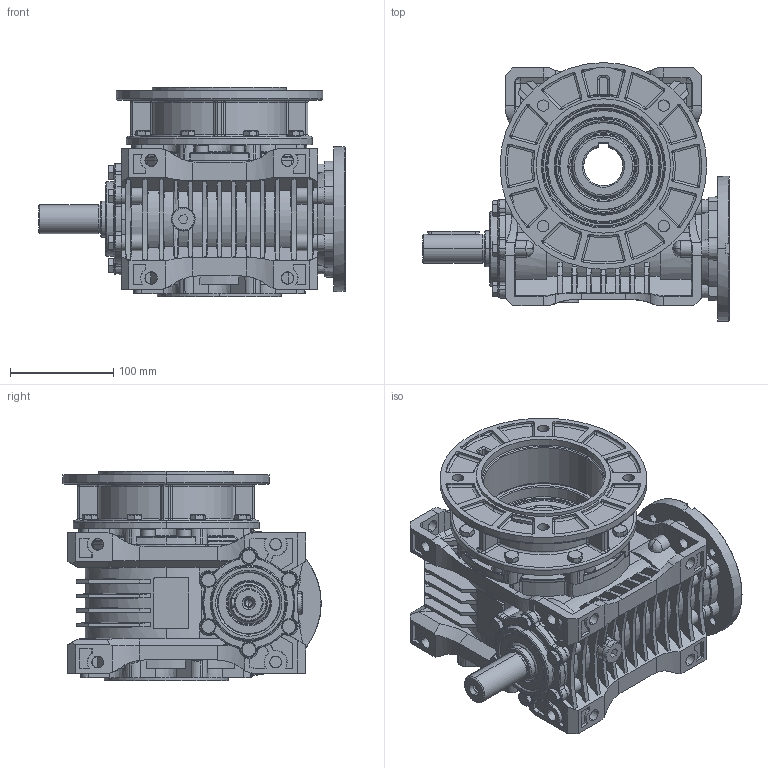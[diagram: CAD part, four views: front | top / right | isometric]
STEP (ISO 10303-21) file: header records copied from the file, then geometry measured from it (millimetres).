
FILE_DESCRIPTION (( 'STEP AP203' ), '1' );
FILE_NAME ('MR-80_140-24-WBS-K200_2-3D.STEP', '2024-05-07T08:42:56', ( '' ), ( '' ), 'SwSTEP 2.0', 'SolidWorks 2022', '' );
FILE_SCHEMA (( 'CONFIG_CONTROL_DESIGN' ));
Length unit declared in the file: millimetre
Products named in the file (1): MR-80_140-24-WBS-K200_2-3D
Bounding box: 297 x 250.22 x 202.5 mm (x, y, z)
Volume: 4510426.2 mm3; surface area: 569890.1 mm2
Topology: 1 solids, 64 shells, 3736 faces, 9541 edges, 5936 vertices
Faces by surface type: plane 1360, cone 1041, cylinder 624, torus 345, bspline 278, sphere 88
Entity records: 124600 total; most frequent: CARTESIAN_POINT 37460, ORIENTED_EDGE 18762, DIRECTION 17852, EDGE_CURVE 9381, AXIS2_PLACEMENT_3D 6999, VERTEX_POINT 5914, EDGE_LOOP 3981, LINE 3854
